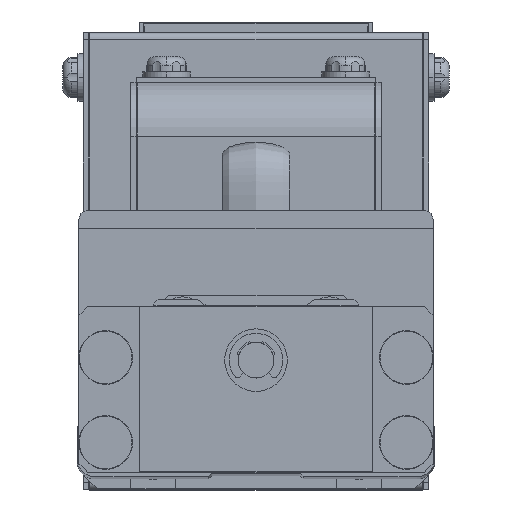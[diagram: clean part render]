
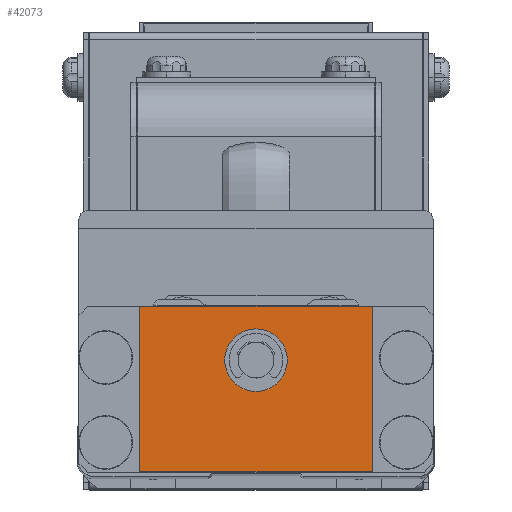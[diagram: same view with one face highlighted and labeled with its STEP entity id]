
A CAD part, top view. The second image highlights one B-rep face of the part: STEP entity #42073.
In plain terms, the highlighted planar face has unit normal (0, 0, 1) as drawn and (1, 0, 0) by its records, which use the part's own axes.
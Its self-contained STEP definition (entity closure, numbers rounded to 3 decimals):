
#4 = ORIENTED_EDGE ( 'NONE', *, *, #31132, .T. ) ;
#53 = DIRECTION ( 'NONE',  ( -1., 0., 0. ) ) ;
#112 = LINE ( 'NONE', #47446, #27719 ) ;
#1108 = ORIENTED_EDGE ( 'NONE', *, *, #18355, .T. ) ;
#2110 = DIRECTION ( 'NONE',  ( 0., -1., 0. ) ) ;
#5384 = VERTEX_POINT ( 'NONE', #49365 ) ;
#6447 = CARTESIAN_POINT ( 'NONE',  ( 160., 6., 13. ) ) ;
#7751 = CARTESIAN_POINT ( 'NONE',  ( 160., 0., -3.5 ) ) ;
#12076 = DIRECTION ( 'NONE',  ( -1., 0., 0. ) ) ;
#12576 = DIRECTION ( 'NONE',  ( 1., 0., 0. ) ) ;
#13713 = EDGE_CURVE ( 'NONE', #49698, #5384, #44367, .T. ) ;
#14237 = VERTEX_POINT ( 'NONE', #17953 ) ;
#14283 = ORIENTED_EDGE ( 'NONE', *, *, #13713, .T. ) ;
#15575 = DIRECTION ( 'NONE',  ( 0., 0., 1. ) ) ;
#17880 = PLANE ( 'NONE',  #67357 ) ;
#17953 = CARTESIAN_POINT ( 'NONE',  ( 160., -12.5, -13. ) ) ;
#17985 = CIRCLE ( 'NONE', #52410, 3.5 ) ;
#18355 = EDGE_CURVE ( 'NONE', #47184, #49698, #40211, .T. ) ;
#18585 = CARTESIAN_POINT ( 'NONE',  ( 160., 6., -13. ) ) ;
#19014 = ORIENTED_EDGE ( 'NONE', *, *, #49143, .T. ) ;
#24144 = FACE_BOUND ( 'NONE', #48902, .T. ) ;
#26014 = VERTEX_POINT ( 'NONE', #7751 ) ;
#27447 = EDGE_LOOP ( 'NONE', ( #14283, #19014, #4, #1108 ) ) ;
#27719 = VECTOR ( 'NONE', #41872, 1000. ) ;
#28078 = CIRCLE ( 'NONE', #61932, 3.5 ) ;
#28652 = DIRECTION ( 'NONE',  ( 0., 0., -1. ) ) ;
#29576 = VECTOR ( 'NONE', #2110, 1000. ) ;
#31132 = EDGE_CURVE ( 'NONE', #14237, #47184, #112, .T. ) ;
#33136 = CARTESIAN_POINT ( 'NONE',  ( 160., 0., 0. ) ) ;
#33559 = ORIENTED_EDGE ( 'NONE', *, *, #69595, .T. ) ;
#34778 = VERTEX_POINT ( 'NONE', #62528 ) ;
#38793 = DIRECTION ( 'NONE',  ( 0., 0., 1. ) ) ;
#38890 = VECTOR ( 'NONE', #28652, 1000. ) ;
#38931 = FACE_OUTER_BOUND ( 'NONE', #27447, .T. ) ;
#40211 = LINE ( 'NONE', #48777, #53161 ) ;
#41872 = DIRECTION ( 'NONE',  ( 0., 1., 0. ) ) ;
#42073 = ADVANCED_FACE ( 'NONE', ( #38931, #24144 ), #17880, .T. ) ;
#44367 = LINE ( 'NONE', #62835, #29576 ) ;
#44865 = LINE ( 'NONE', #61888, #38890 ) ;
#45228 = CARTESIAN_POINT ( 'NONE',  ( 160., 0., 0. ) ) ;
#45718 = CARTESIAN_POINT ( 'NONE',  ( 160., 0., 0. ) ) ;
#47184 = VERTEX_POINT ( 'NONE', #18585 ) ;
#47446 = CARTESIAN_POINT ( 'NONE',  ( 160., -12.5, -13. ) ) ;
#48777 = CARTESIAN_POINT ( 'NONE',  ( 160., 6., -13. ) ) ;
#48902 = EDGE_LOOP ( 'NONE', ( #33559, #53814 ) ) ;
#49143 = EDGE_CURVE ( 'NONE', #5384, #14237, #44865, .T. ) ;
#49365 = CARTESIAN_POINT ( 'NONE',  ( 160., -12.5, 13. ) ) ;
#49698 = VERTEX_POINT ( 'NONE', #6447 ) ;
#50191 = EDGE_CURVE ( 'NONE', #26014, #34778, #28078, .T. ) ;
#50794 = DIRECTION ( 'NONE',  ( 0., 0., 1. ) ) ;
#51297 = DIRECTION ( 'NONE',  ( 0., 0., -1. ) ) ;
#52410 = AXIS2_PLACEMENT_3D ( 'NONE', #45228, #12076, #50794 ) ;
#53161 = VECTOR ( 'NONE', #15575, 1000. ) ;
#53814 = ORIENTED_EDGE ( 'NONE', *, *, #50191, .T. ) ;
#61888 = CARTESIAN_POINT ( 'NONE',  ( 160., -12.5, 13. ) ) ;
#61932 = AXIS2_PLACEMENT_3D ( 'NONE', #33136, #53, #38793 ) ;
#62528 = CARTESIAN_POINT ( 'NONE',  ( 160., 0., 3.5 ) ) ;
#62835 = CARTESIAN_POINT ( 'NONE',  ( 160., 6., 13. ) ) ;
#67357 = AXIS2_PLACEMENT_3D ( 'NONE', #45718, #12576, #51297 ) ;
#69595 = EDGE_CURVE ( 'NONE', #34778, #26014, #17985, .T. ) ;
